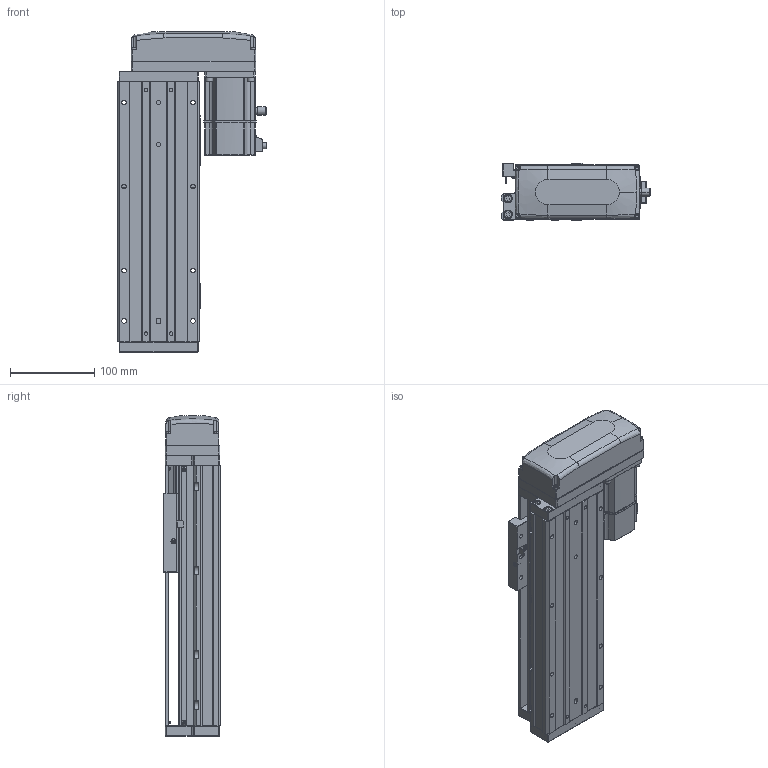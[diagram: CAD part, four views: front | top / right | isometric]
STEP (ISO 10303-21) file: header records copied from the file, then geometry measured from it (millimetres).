
FILE_DESCRIPTION (( 'STEP AP203' ), '1' );
FILE_NAME ('KTHA100-150-BL-M20-C4L.step', '2022-04-26T01:47:49', ( '微软用户' ), ( '微软中国' ), 'SwSTEP 2.0', 'SolidWorks 2020', '' );
FILE_SCHEMA (( 'CONFIG_CONTROL_DESIGN' ));
Length unit declared in the file: millimetre
Products named in the file (17): GBT 70.3-M3℅6; CTHA60-017; KTHA100-001_310; _X2_4E0983F1_X0_200W_1; CTHA60-021; KTHA100-002; CTHA86-015-1_CTHA86-015-2; GBT77-2000 M3×3; KTHA100-004; CTHA86-033; GBT 70.1-M3℅6; KTHA100-005; KTHA100-150-BL-M20-C4L; GBT70.1 M5℅16; GB¨uT 70.2-M3¡Á5_M3¡Á6; CTHA60-016; EE_SX911P_R
Assembly tree (57 placements, depth 2):
  KTHA100-150-BL-M20-C4L
    KTHA100-001_310
    KTHA100-002
    KTHA100-004
    KTHA100-005
    GB¨uT 70.2-M3¡Á5_M3¡Á6  x6
    EE_SX911P_R  x3
    CTHA60-017  x3
    CTHA60-021  x2
    GBT77-2000 M3×3  x6
    GBT 70.1-M3℅6  x10
    GBT70.1 M5℅16  x14
    CTHA60-016  x2
    GBT 70.3-M3℅6  x4
    _X2_4E0983F1_X0_200W_1
    CTHA86-015-1_CTHA86-015-2
    CTHA86-033
Bounding box: 177.7 x 68 x 381 mm (x, y, z)
Volume: 2090130.1 mm3; surface area: 352155.1 mm2
Topology: 60 solids, 60 shells, 2357 faces, 5609 edges, 3472 vertices
Faces by surface type: plane 1196, cylinder 653, cone 301, torus 116, bspline 75, sphere 16
Entity records: 39364 total; most frequent: CARTESIAN_POINT 8000, DIRECTION 6052, ORIENTED_EDGE 5830, EDGE_CURVE 2915, AXIS2_PLACEMENT_3D 2132, VERTEX_POINT 1832, LINE 1788, VECTOR 1788
